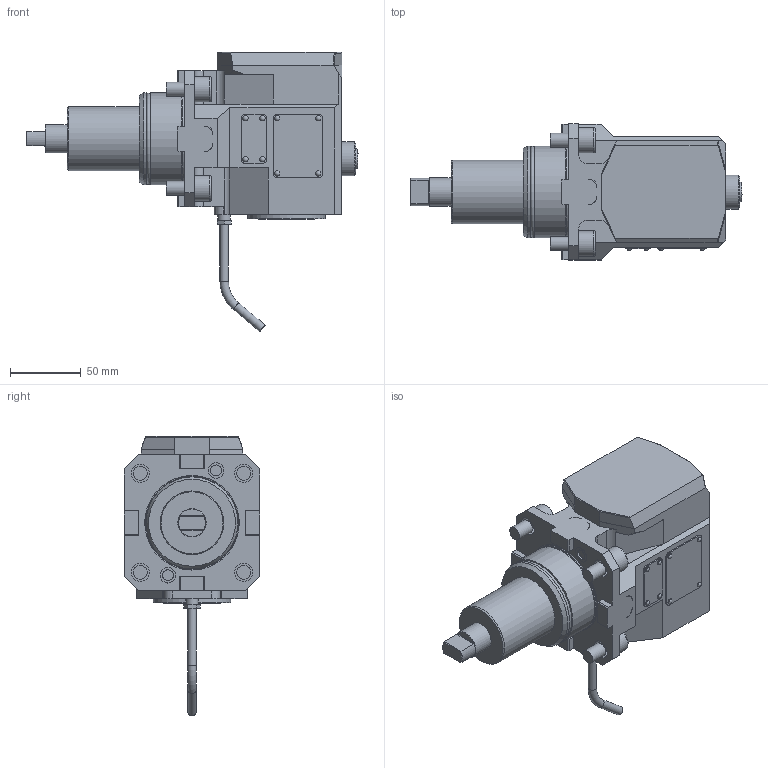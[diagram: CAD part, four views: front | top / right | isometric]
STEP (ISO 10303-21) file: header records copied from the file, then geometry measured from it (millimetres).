
FILE_DESCRIPTION(/* description */ (''),/* implementation_level */ '2;1');
FILE_NAME(/* name */ '197603-UNI',/* time_stamp */ '2021-12-23T12:38:53+01:00',/* author */ (''),/* organization */ (''),/* preprocessor_version */ 'ST-DEVELOPER v16.5',/* originating_system */ 'HiCAD 2017 2201.0 Build 268',/* authorisation */ '');
FILE_SCHEMA (('TECHNICAL_DATA_PACKAGING'));
Length unit declared in the file: millimetre
Products named in the file (2): Root; Teil
Assembly tree (1 placements, depth 2):
  Root
    Teil
Bounding box: 234.5 x 96 x 197.17 mm (x, y, z)
Volume: 1089587.9 mm3; surface area: 100011.9 mm2
Topology: 5 solids, 17 shells, 518 faces, 1242 edges, 810 vertices
Faces by surface type: plane 345, cylinder 122, torus 21, cone 18, sphere 8, bspline 4
Full cylindrical faces by diameter (mm): 2 x8, 2.2 x8, 3.141 x4, 4 x6, 6 x2, 7.65 x2, 8.773 x1, 9.853 x4, 11.01 x2, 11.1 x2, 13 x4, 15 x1, 18 x4, 19 x1, 20 x1, 24 x1, 25.2 x1, 31.6 x1, 40 x1, 45 x1, 55 x1, 60.8 x2, 64.5 x1, 64.9 x2
Entity records: 28043 total; most frequent: CARTESIAN_POINT 5233, DIRECTION 2446, PRESENTATION_STYLE_ASSIGNMENT 2233, COLOUR_RGB 2233, DRAUGHTING_PRE_DEFINED_CURVE_FONT 2232, CURVE_STYLE 2232, OVER_RIDING_STYLED_ITEM 2232, ORIENTED_EDGE 2232
